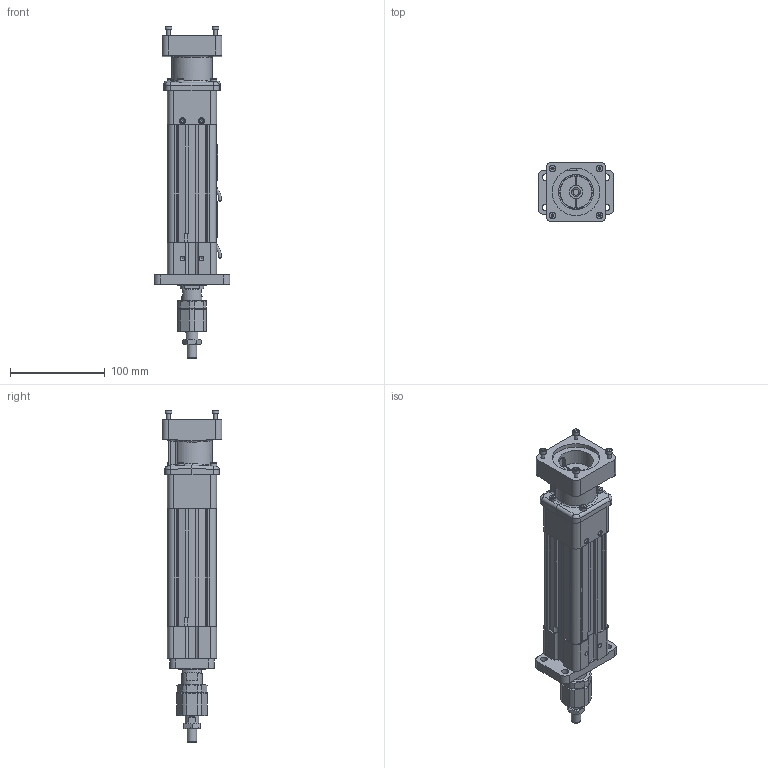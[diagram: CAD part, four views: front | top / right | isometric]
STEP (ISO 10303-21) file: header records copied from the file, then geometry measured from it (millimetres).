
FILE_DESCRIPTION (( 'STEP AP203' ), '1' );
FILE_NAME ('RSA24_BNL05_SM60.000_RS-485159-1.step', '2025-04-01T17:51:53', ( '' ), ( '' ), 'SwSTEP 2.0', 'SolidWorks 2024', '' );
FILE_SCHEMA (( 'CONFIG_CONTROL_DESIGN' ));
Length unit declared in the file: inch
Products named in the file (8): 21241070_RSA24_BNL05_SM60.000_RS-485159-1; tempJoin1_21249083_RSA24_BNL05_SM60.000_RS-485159-1; Base_RSA24_BNL05_SM60.000_RS-485159-1; 21241067_RSA24_BNL05_SM60.000_RS-485159-1; tempJoin3_45109053_RSA24_BNL05_SM60.000_RS-485159-1; tempJoin1_21249032_RSA24_BNL05_SM60.000_RS-485159-1; 11249810_RSA24_BNL05_SM60.000_RS-485159-1; RSA24_BNL05_SM60.000_RS-485159-1
Assembly tree (8 placements, depth 2):
  RSA24_BNL05_SM60.000_RS-485159-1
    11249810_RSA24_BNL05_SM60.000_RS-485159-1  x2
    21241067_RSA24_BNL05_SM60.000_RS-485159-1
    tempJoin1_21249032_RSA24_BNL05_SM60.000_RS-485159-1
    21241070_RSA24_BNL05_SM60.000_RS-485159-1
    tempJoin3_45109053_RSA24_BNL05_SM60.000_RS-485159-1
    tempJoin1_21249083_RSA24_BNL05_SM60.000_RS-485159-1
    Base_RSA24_BNL05_SM60.000_RS-485159-1
Bounding box: 80 x 63.17 x 350.27 mm (x, y, z)
Volume: 603145.1 mm3; surface area: 164405.1 mm2
Topology: 12 solids, 33 shells, 1349 faces, 3289 edges, 2153 vertices
Faces by surface type: plane 774, cylinder 323, bspline 156, cone 74, torus 22
Full cylindrical faces by diameter (mm): 1 x4, 1.981 x2, 2.25 x4, 2.5 x9, 2.921 x4, 3.299 x4, 3.3 x8, 3.969 x2, 3.988 x2, 4 x21, 4.2 x4, 4.572 x1, 4.623 x4, 4.826 x4, 5 x10, 5.001 x2, 5.613 x4, 6.25 x2, 6.35 x2, 7 x13, 7.2 x4, 7.874 x4, 7.973 x1, 8.128 x2, 8.5 x12, 8.8 x2, 9.652 x12, 9.906 x1, 9.972 x1, 10 x2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
Entity records: 36225 total; most frequent: CARTESIAN_POINT 9973, DIRECTION 5082, ORIENTED_EDGE 4952, EDGE_CURVE 2476, AXIS2_PLACEMENT_3D 1823, VERTEX_POINT 1734, EDGE_LOOP 1558, VECTOR 1436
